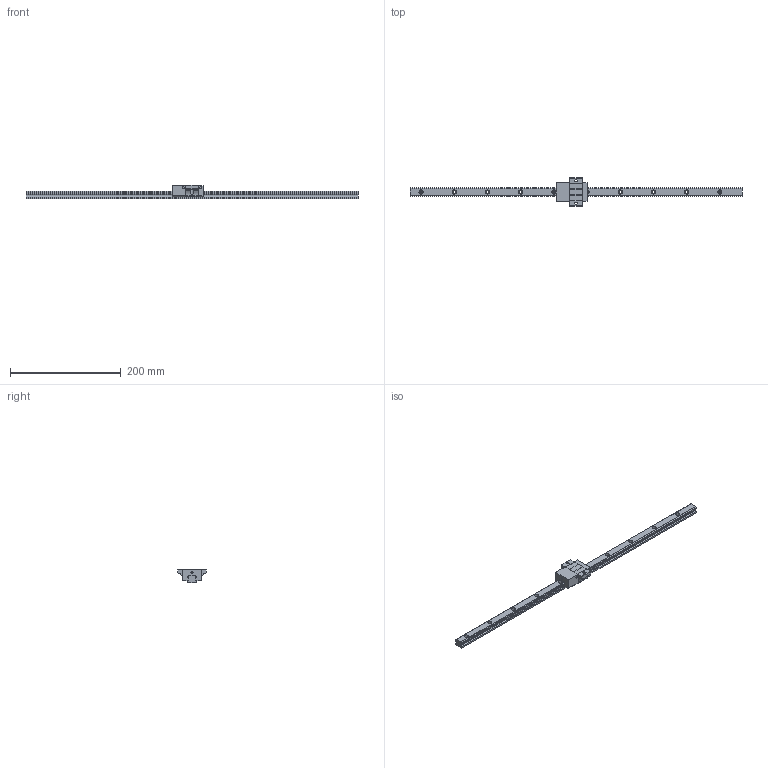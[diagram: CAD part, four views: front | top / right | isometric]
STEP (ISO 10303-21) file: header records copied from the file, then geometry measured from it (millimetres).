
FILE_DESCRIPTION (( 'STEP AP203' ), '1' );
FILE_NAME ('TRS15FS-BN.STEP', '2024-07-11T01:21:53', ( '' ), ( '' ), 'SwSTEP 2.0', 'SolidWorks 2022', '' );
FILE_SCHEMA (( 'CONFIG_CONTROL_DESIGN' ));
Length unit declared in the file: millimetre
Products named in the file (1): TRS15FS-BN
Bounding box: 600 x 52 x 24 mm (x, y, z)
Volume: 134271.4 mm3; surface area: 47021.8 mm2
Topology: 2 solids, 2 shells, 222 faces, 590 edges, 384 vertices
Faces by surface type: cylinder 116, plane 102, sphere 4
Entity records: 7303 total; most frequent: CARTESIAN_POINT 1514, DIRECTION 1226, ORIENTED_EDGE 1172, EDGE_CURVE 586, AXIS2_PLACEMENT_3D 437, VERTEX_POINT 384, VECTOR 352, LINE 352
